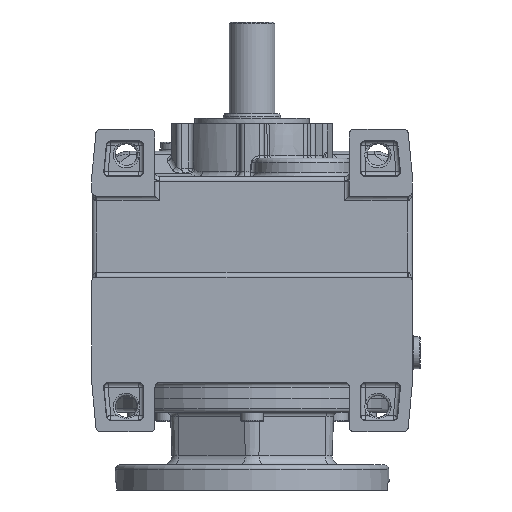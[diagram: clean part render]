
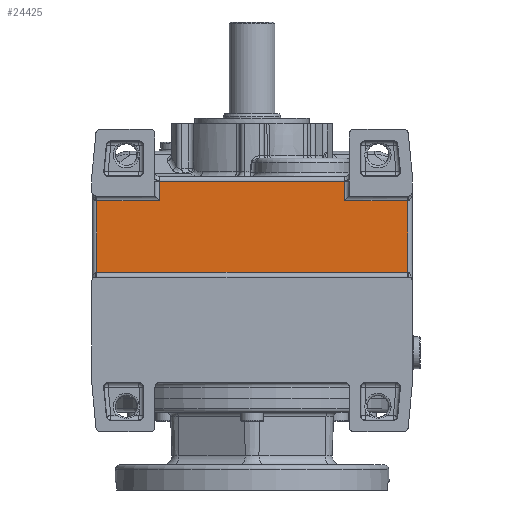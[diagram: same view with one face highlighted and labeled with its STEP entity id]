
A CAD part, front view. The second image highlights one B-rep face of the part: STEP entity #24425.
In plain terms, the highlighted planar face has unit normal (0, -1, 0).
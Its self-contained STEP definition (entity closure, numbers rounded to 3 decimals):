
#22669 = VERTEX_POINT ( 'NONE', #50261 ) ;
#22673 = EDGE_CURVE ( 'NONE', #22675, #22669, #50256, .T. ) ;
#22675 = VERTEX_POINT ( 'NONE', #50252 ) ;
#24425 = ADVANCED_FACE ( 'NONE', ( #52077 ), #52076, .T. ) ;
#24427 = EDGE_LOOP ( 'NONE', ( #24429, #24515, #24518, #24521, #24536, #24537, #24540, #25642 ) ) ;
#24429 = ORIENTED_EDGE ( 'NONE', *, *, #24431, .T. ) ;
#24431 = EDGE_CURVE ( 'NONE', #24433, #24514, #52071, .T. ) ;
#24433 = VERTEX_POINT ( 'NONE', #52067 ) ;
#24514 = VERTEX_POINT ( 'NONE', #52172 ) ;
#24515 = ORIENTED_EDGE ( 'NONE', *, *, #24516, .T. ) ;
#24516 = EDGE_CURVE ( 'NONE', #24514, #24517, #52170, .T. ) ;
#24517 = VERTEX_POINT ( 'NONE', #52166 ) ;
#24518 = ORIENTED_EDGE ( 'NONE', *, *, #24519, .T. ) ;
#24519 = EDGE_CURVE ( 'NONE', #24517, #24520, #52240, .T. ) ;
#24520 = VERTEX_POINT ( 'NONE', #52236 ) ;
#24521 = ORIENTED_EDGE ( 'NONE', *, *, #24535, .T. ) ;
#24535 = EDGE_CURVE ( 'NONE', #24520, #22675, #52253, .T. ) ;
#24536 = ORIENTED_EDGE ( 'NONE', *, *, #22673, .T. ) ;
#24537 = ORIENTED_EDGE ( 'NONE', *, *, #24538, .T. ) ;
#24538 = EDGE_CURVE ( 'NONE', #22669, #24539, #52249, .T. ) ;
#24539 = VERTEX_POINT ( 'NONE', #52290 ) ;
#24540 = ORIENTED_EDGE ( 'NONE', *, *, #25477, .T. ) ;
#25477 = EDGE_CURVE ( 'NONE', #24539, #25480, #52489, .T. ) ;
#25480 = VERTEX_POINT ( 'NONE', #52485 ) ;
#25642 = ORIENTED_EDGE ( 'NONE', *, *, #25645, .T. ) ;
#25645 = EDGE_CURVE ( 'NONE', #25480, #24433, #52931, .T. ) ;
#50252 = CARTESIAN_POINT ( 'NONE',  ( 67.929, -74., -64.93 ) ) ;
#50253 = DIRECTION ( 'NONE',  ( 0., 0., 1. ) ) ;
#50254 = VECTOR ( 'NONE', #50253, 1000. ) ;
#50255 = CARTESIAN_POINT ( 'NONE',  ( 67.929, -74., -113. ) ) ;
#50256 = LINE ( 'NONE', #50255, #50254 ) ;
#50261 = CARTESIAN_POINT ( 'NONE',  ( 67.929, -74., -33.57 ) ) ;
#52067 = CARTESIAN_POINT ( 'NONE',  ( -40.43, -74., -25. ) ) ;
#52068 = DIRECTION ( 'NONE',  ( 0., 0., -1. ) ) ;
#52069 = VECTOR ( 'NONE', #52068, 1000. ) ;
#52070 = CARTESIAN_POINT ( 'NONE',  ( -40.43, -74., -31.5 ) ) ;
#52071 = LINE ( 'NONE', #52070, #52069 ) ;
#52072 = DIRECTION ( 'NONE',  ( 1., 0., 0. ) ) ;
#52073 = DIRECTION ( 'NONE',  ( 0., -1., 0. ) ) ;
#52074 = CARTESIAN_POINT ( 'NONE',  ( -70., -74., -113. ) ) ;
#52075 = AXIS2_PLACEMENT_3D ( 'NONE', #52074, #52073, #52072 ) ;
#52076 = PLANE ( 'NONE',  #52075 ) ;
#52077 = FACE_OUTER_BOUND ( 'NONE', #24427, .T. ) ;
#52166 = CARTESIAN_POINT ( 'NONE',  ( -67.929, -74., -33.57 ) ) ;
#52167 = DIRECTION ( 'NONE',  ( -1., 0., 0. ) ) ;
#52168 = VECTOR ( 'NONE', #52167, 1000. ) ;
#52169 = CARTESIAN_POINT ( 'NONE',  ( -67.929, -74., -33.57 ) ) ;
#52170 = LINE ( 'NONE', #52169, #52168 ) ;
#52172 = CARTESIAN_POINT ( 'NONE',  ( -40.43, -74., -33.57 ) ) ;
#52236 = CARTESIAN_POINT ( 'NONE',  ( -67.929, -74., -64.93 ) ) ;
#52237 = DIRECTION ( 'NONE',  ( 0., 0., -1. ) ) ;
#52238 = VECTOR ( 'NONE', #52237, 1000. ) ;
#52239 = CARTESIAN_POINT ( 'NONE',  ( -67.929, -74., -113. ) ) ;
#52240 = LINE ( 'NONE', #52239, #52238 ) ;
#52247 = VECTOR ( 'NONE', #52291, 1000. ) ;
#52248 = CARTESIAN_POINT ( 'NONE',  ( 40.43, -74., -33.57 ) ) ;
#52249 = LINE ( 'NONE', #52248, #52247 ) ;
#52250 = DIRECTION ( 'NONE',  ( 1., 0., 0. ) ) ;
#52251 = VECTOR ( 'NONE', #52250, 1000. ) ;
#52252 = CARTESIAN_POINT ( 'NONE',  ( 67.929, -74., -64.93 ) ) ;
#52253 = LINE ( 'NONE', #52252, #52251 ) ;
#52290 = CARTESIAN_POINT ( 'NONE',  ( 40.43, -74., -33.57 ) ) ;
#52291 = DIRECTION ( 'NONE',  ( -1., 0., 0. ) ) ;
#52485 = CARTESIAN_POINT ( 'NONE',  ( 40.43, -74., -25. ) ) ;
#52486 = DIRECTION ( 'NONE',  ( 0., 0., 1. ) ) ;
#52487 = VECTOR ( 'NONE', #52486, 1000. ) ;
#52488 = CARTESIAN_POINT ( 'NONE',  ( 40.43, -74., -25. ) ) ;
#52489 = LINE ( 'NONE', #52488, #52487 ) ;
#52928 = DIRECTION ( 'NONE',  ( -1., 0., 0. ) ) ;
#52929 = VECTOR ( 'NONE', #52928, 1000. ) ;
#52930 = CARTESIAN_POINT ( 'NONE',  ( -67.999, -74., -25. ) ) ;
#52931 = LINE ( 'NONE', #52930, #52929 ) ;
